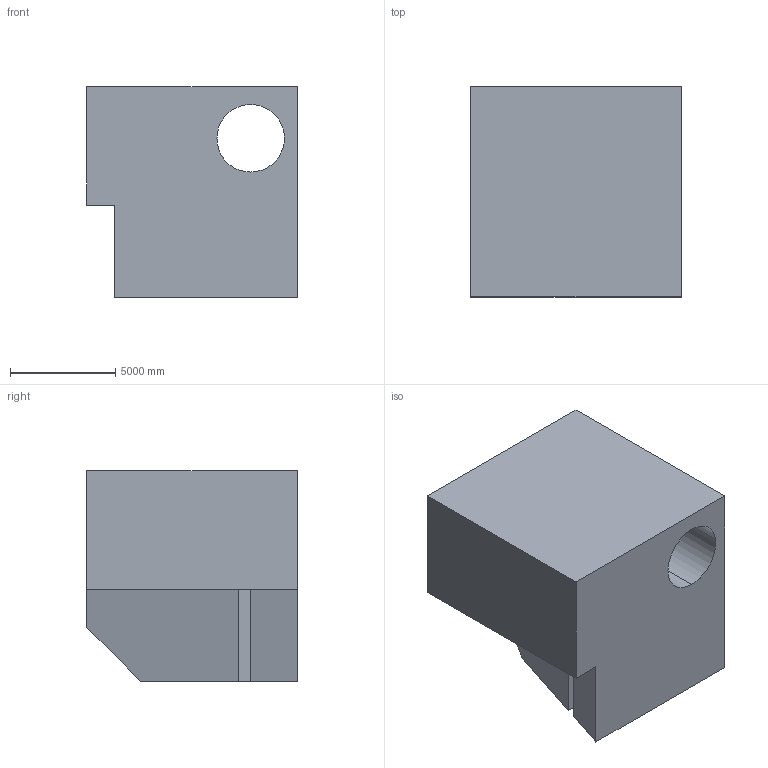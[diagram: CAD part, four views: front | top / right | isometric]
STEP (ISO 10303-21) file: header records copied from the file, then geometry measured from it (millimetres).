
FILE_DESCRIPTION (( 'STEP AP203' ), '1' );
FILE_NAME ('278.STEP', '2022-09-07T12:34:51', ( 'user' ), ( '' ), 'SwSTEP 2.0', 'SolidWorks 2021', '' );
FILE_SCHEMA (( 'CONFIG_CONTROL_DESIGN' ));
Length unit declared in the file: centimetre
Products named in the file (1): 278
Bounding box: 10000 x 10000 x 10000 mm (x, y, z)
Volume: 737209462891.7 mm3; surface area: 696812779.7 mm2
Topology: 1 solids, 1 shells, 17 faces, 45 edges, 30 vertices
Faces by surface type: plane 15, cylinder 2
Entity records: 604 total; most frequent: CARTESIAN_POINT 93, ORIENTED_EDGE 90, DIRECTION 85, EDGE_CURVE 45, VECTOR 41, LINE 41, VERTEX_POINT 30, AXIS2_PLACEMENT_3D 22
